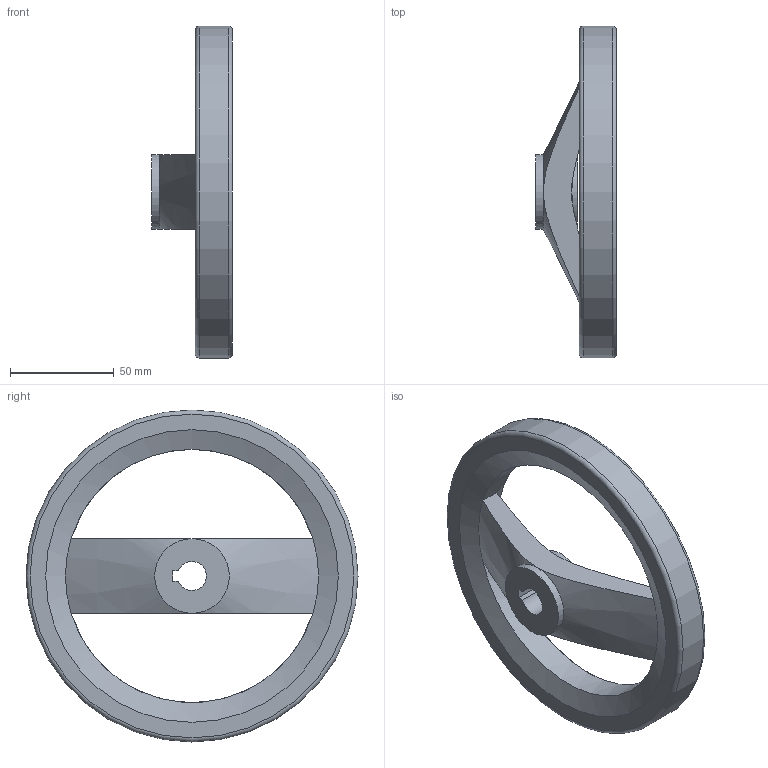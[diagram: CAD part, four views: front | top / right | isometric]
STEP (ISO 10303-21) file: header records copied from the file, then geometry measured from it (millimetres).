
FILE_DESCRIPTION( ( 'STEP AP203' ), '1' );
FILE_NAME( 'C:/Temp/Ganter_Step_05_03_2020/data/1_3/gn_324/gn_324_k/gn_324_k_a/Handwheel, matt black GN 324-160-K14-A.stp', '2020-03-05T10:33:00', ( 'License CC BY-ND 4.0' ), ( 'CADENAS' ), ' ', 'PARTsolutions', ' ' );
FILE_SCHEMA( ( 'CONFIG_CONTROL_DESIGN' ) );
Length unit declared in the file: millimetre
Products named in the file (1): _Handwheel, matt black GN 324-160-K14-A
Bounding box: 39 x 160 x 160 mm (x, y, z)
Volume: 198623.3 mm3; surface area: 43272.5 mm2
Topology: 1 solids, 1 shells, 22 faces, 52 edges, 30 vertices
Faces by surface type: plane 9, cone 6, cylinder 5, torus 2
Full cylindrical faces by diameter (mm): 36 x2, 122 x1, 160 x1
Entity records: 760 total; most frequent: CARTESIAN_POINT 239, DIRECTION 102, ORIENTED_EDGE 86, AXIS2_PLACEMENT_3D 44, EDGE_CURVE 43, EDGE_LOOP 34, VERTEX_POINT 29, FACE_OUTER_BOUND 28
